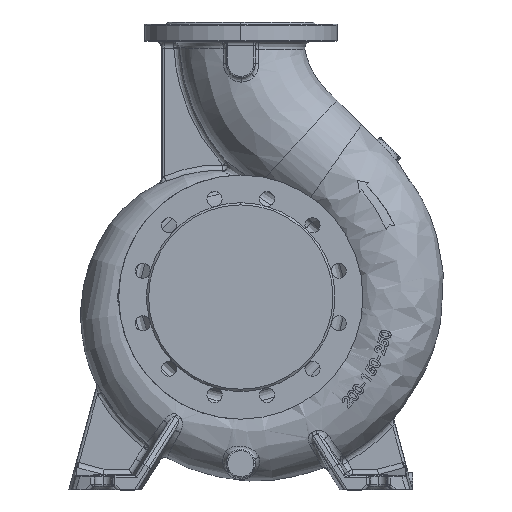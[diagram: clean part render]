
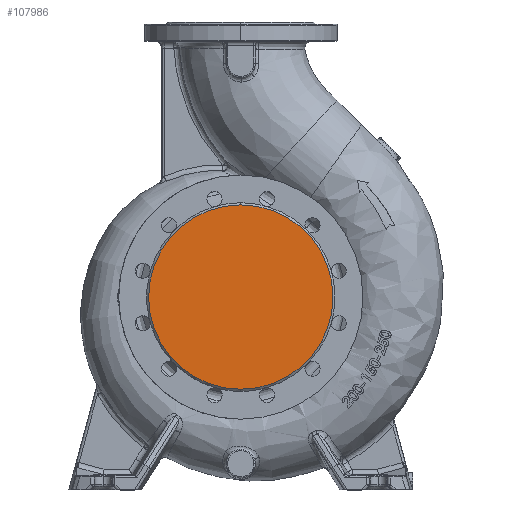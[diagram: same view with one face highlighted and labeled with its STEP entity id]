
A CAD part, top view. The second image highlights one B-rep face of the part: STEP entity #107986.
In plain terms, the highlighted planar face has unit normal (0, 0, 1).
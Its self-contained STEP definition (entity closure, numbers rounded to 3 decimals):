
#624 = DIRECTION ( 'NONE',  ( 0., 0., -1. ) ) ;
#5829 = AXIS2_PLACEMENT_3D ( 'NONE', #126843, #79217, #103306 ) ;
#6546 = CIRCLE ( 'NONE', #5829, 134. ) ;
#17803 = PLANE ( 'NONE',  #80524 ) ;
#18315 = DIRECTION ( 'NONE',  ( 0., 1., 0. ) ) ;
#36571 = CARTESIAN_POINT ( 'NONE',  ( 0., 134., 160. ) ) ;
#41362 = DIRECTION ( 'NONE',  ( 0., 0., -1. ) ) ;
#60754 = CIRCLE ( 'NONE', #121169, 134. ) ;
#66042 = CARTESIAN_POINT ( 'NONE',  ( 0., 0., 160. ) ) ;
#71394 = CARTESIAN_POINT ( 'NONE',  ( 0., 0., 160. ) ) ;
#79217 = DIRECTION ( 'NONE',  ( 0., 0., -1. ) ) ;
#80524 = AXIS2_PLACEMENT_3D ( 'NONE', #66042, #41362, #18315 ) ;
#94481 = DIRECTION ( 'NONE',  ( 0., 1., 0. ) ) ;
#103306 = DIRECTION ( 'NONE',  ( 0., 1., 0. ) ) ;
#103590 = ORIENTED_EDGE ( 'NONE', *, *, #134121, .F. ) ;
#105152 = CARTESIAN_POINT ( 'NONE',  ( 0., -134., 160. ) ) ;
#107986 = ADVANCED_FACE ( 'NONE', ( #137965 ), #17803, .F. ) ;
#109541 = VERTEX_POINT ( 'NONE', #105152 ) ;
#115065 = EDGE_LOOP ( 'NONE', ( #142883, #103590 ) ) ;
#121169 = AXIS2_PLACEMENT_3D ( 'NONE', #71394, #624, #94481 ) ;
#124451 = EDGE_CURVE ( 'NONE', #139535, #109541, #60754, .T. ) ;
#126843 = CARTESIAN_POINT ( 'NONE',  ( 0., 0., 160. ) ) ;
#134121 = EDGE_CURVE ( 'NONE', #109541, #139535, #6546, .T. ) ;
#137965 = FACE_OUTER_BOUND ( 'NONE', #115065, .T. ) ;
#139535 = VERTEX_POINT ( 'NONE', #36571 ) ;
#142883 = ORIENTED_EDGE ( 'NONE', *, *, #124451, .F. ) ;
